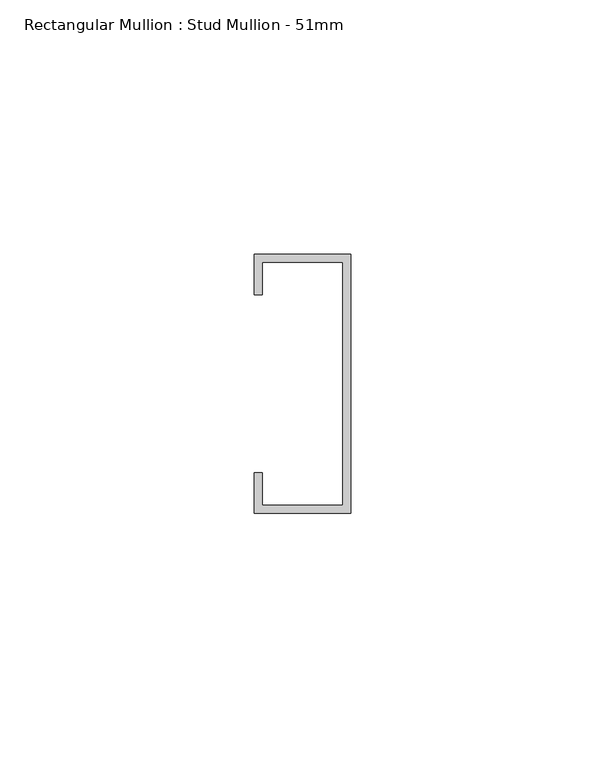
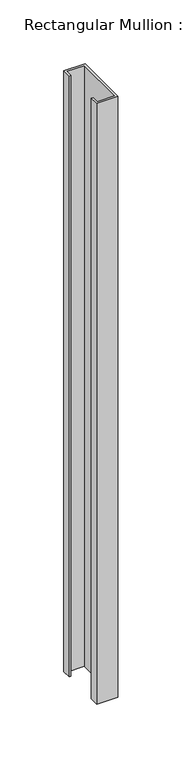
"""IFC4 building model written with IfcOpenShell, lengths in millimetres: member geometry, Rectangular Mullion : Stud Mullion - 51mm."""

import ifcopenshell
import ifcopenshell.guid

model = None  # the IFC model being written
_history = None  # IfcOwnerHistory: only IFC2X3 demands one
_inside = {}  # id of a spatial element -> (the spatial element, [elements in it])
_under = {}  # id of a project, library or spatial element -> (it, [spatial elements below it])
_declared = {}  # id of a project -> (the project, [libraries it declares])
_typed = {}  # id of a type object -> (the type object, [elements of that type])
_made_of = {}  # id of a material, layer set ... -> (it, [elements and type objects made of it])


def new_model(schema):
    """Start an empty IFC model of exactly this schema.

    Asked for "IFC4X3", IfcOpenShell would pick the latest addendum, in which some entities
    have other attributes; the version numbers below select the first issue.
    IFC2X3 requires an IfcOwnerHistory on every rooted entity: one is made here for all.
    """
    global model, _history
    if schema == "IFC4X3":
        model = ifcopenshell.file(schema_version=(4, 3, 0, 0))
    else:
        model = ifcopenshell.file(schema=schema)
    _inside.clear()
    _under.clear()
    _declared.clear()
    _typed.clear()
    _made_of.clear()
    _history = None
    if model.schema == "IFC2X3":
        org = make("IfcOrganization", Name="unknown")
        user = make(
            "IfcPersonAndOrganization",
            ThePerson=make("IfcPerson", FamilyName="unknown"),
            TheOrganization=org,
        )
        app = make(
            "IfcApplication",
            ApplicationDeveloper=org,
            Version="unknown",
            ApplicationFullName="unknown",
            ApplicationIdentifier="unknown",
        )
        _history = make(
            "IfcOwnerHistory",
            OwningUser=user,
            OwningApplication=app,
            ChangeAction="ADDED",
            CreationDate=0,
        )
    return model


def make(cls, **values):
    """One entity of the class cls with the attributes given. An attribute that is None is left unset."""
    return model.create_entity(
        cls, **{name: value for name, value in values.items() if value is not None}
    )


def rooted(cls, **values):
    """An entity with a GlobalId (a new one), such as an element, a storey or a relation."""
    return make(cls, GlobalId=ifcopenshell.guid.new(), OwnerHistory=_history, **values)


def si_unit(unit_type, name, prefix=None):
    """IfcSIUnit, for example si_unit("LENGTHUNIT", "METRE", prefix="MILLI")."""
    return make("IfcSIUnit", UnitType=unit_type, Prefix=prefix, Name=name)


def assignment(units):
    """IfcUnitAssignment: the units of a project."""
    return None if units is None else make("IfcUnitAssignment", Units=units)


def point(xyz):
    """IfcCartesianPoint."""
    return None if xyz is None else make("IfcCartesianPoint", Coordinates=xyz)


def direction(xyz):
    """IfcDirection."""
    return None if xyz is None else make("IfcDirection", DirectionRatios=xyz)


def frame(location, z_axis=None, x_axis=None):
    """IfcAxis2Placement3D, a coordinate frame: its origin and axes. An axis left out is left unset."""
    return make(
        "IfcAxis2Placement3D",
        Location=point(location),
        Axis=direction(z_axis),
        RefDirection=direction(x_axis),
    )


def origin():
    """The frame at (0, 0, 0) with its axes left unset."""
    return frame((0.0, 0.0, 0.0))


def place(relative_to, where):
    """IfcLocalPlacement: puts the frame where relative to a parent placement (None: the world)."""
    return make(
        "IfcLocalPlacement", PlacementRelTo=relative_to, RelativePlacement=where
    )


def context(
    kind, dimensions, precision=None, world=None, true_north=None, identifier=None
):
    """IfcGeometricRepresentationContext, for example the 3D "Model" context."""
    return make(
        "IfcGeometricRepresentationContext",
        ContextIdentifier=identifier,
        ContextType=kind,
        CoordinateSpaceDimension=dimensions,
        Precision=precision,
        WorldCoordinateSystem=world,
        TrueNorth=true_north,
    )


def project(units=None, contexts=None):
    """IfcProject with its units and contexts."""
    return rooted(
        "IfcProject",
        Name="project",
        RepresentationContexts=contexts,
        UnitsInContext=assignment(units),
    )


def spatial(cls, under=None, at=None, **own):
    """A site, building, storey or space (cls), placed at a placement, below another one or the project."""
    s = rooted(cls, ObjectPlacement=at, **own)
    if under is not None:
        _under.setdefault(under.id(), (under, []))[1].append(s)
    return s


def polyline(points):
    """IfcPolyline through the points."""
    return make("IfcPolyline", Points=[point(p) for p in points])


def outline(outer, holes=None, kind="AREA"):
    """IfcArbitraryClosedProfileDef: a profile drawn as a closed curve; with holes, ...WithVoids."""
    if holes is None:
        return make("IfcArbitraryClosedProfileDef", ProfileType=kind, OuterCurve=outer)
    return make(
        "IfcArbitraryProfileDefWithVoids",
        ProfileType=kind,
        OuterCurve=outer,
        InnerCurves=holes,
    )


def extrude(swept, where, along, depth):
    """IfcExtrudedAreaSolid: the profile swept, set in the frame where, extruded along a direction by depth."""
    return make(
        "IfcExtrudedAreaSolid",
        SweptArea=swept,
        Position=where,
        ExtrudedDirection=direction(along),
        Depth=depth,
    )


def shape(context_of_items, identifier, shape_type, items):
    """IfcShapeRepresentation: the items that make up one representation, for example the "Body"."""
    return make(
        "IfcShapeRepresentation",
        ContextOfItems=context_of_items,
        RepresentationIdentifier=identifier,
        RepresentationType=shape_type,
        Items=items,
    )


def source(mapping_origin, context_of_items, identifier, shape_type, items):
    """IfcRepresentationMap: a shape defined once, which mapped items show again and again."""
    return make(
        "IfcRepresentationMap",
        MappingOrigin=mapping_origin,
        MappedRepresentation=shape(context_of_items, identifier, shape_type, items),
    )


def transform(
    local_origin,
    x_axis=None,
    y_axis=None,
    z_axis=None,
    scale=None,
    scale2=None,
    scale3=None,
    uniform=True,
):
    """IfcCartesianTransformationOperator3D, or its non-uniform kind. x_axis, y_axis, z_axis: its Axis1, 2, 3."""
    if uniform:
        return make(
            "IfcCartesianTransformationOperator3D",
            Axis1=direction(x_axis),
            Axis2=direction(y_axis),
            LocalOrigin=point(local_origin),
            Scale=scale,
            Axis3=direction(z_axis),
        )
    return make(
        "IfcCartesianTransformationOperator3DnonUniform",
        Axis1=direction(x_axis),
        Axis2=direction(y_axis),
        LocalOrigin=point(local_origin),
        Scale=scale,
        Axis3=direction(z_axis),
        Scale2=scale2,
        Scale3=scale3,
    )


def mapped(mapping_source, mapping_target):
    """IfcMappedItem: shows the shape of a source again, moved by a transform."""
    return make(
        "IfcMappedItem", MappingSource=mapping_source, MappingTarget=mapping_target
    )


def made_of(thing, what):
    """Note that an element or type object is made of a material, layer set ...; save() writes the relation."""
    if what is not None:
        _made_of.setdefault(what.id(), (what, []))[1].append(thing)
    return thing


def element(
    cls,
    number,
    at=None,
    inside=None,
    cuts=None,
    type_object=None,
    material=None,
    context=None,
    identifier="Body",
    shape_type=None,
    held_by="IfcProductDefinitionShape",
    body=None,
    shapes=None,
    **own,
):
    """One element of the class cls, such as IfcWall. Its Tag is "e" and its number.

    at: its placement. inside: the storey or other place that contains it. cuts: it is an
    opening in that element (IfcRelVoidsElement). A single representation is given by context,
    identifier, shape_type and body (its items); several are given by shapes. held_by: the class
    of the entity that holds the representations. save() writes the other relations.
    """
    e = rooted(cls, Tag="e%d" % number, ObjectPlacement=at, **own)
    if body is not None:
        shapes = [shape(context, identifier, shape_type, body)]
    if shapes is not None:
        e.Representation = make(held_by, Representations=shapes)
    if inside is not None:
        _inside.setdefault(inside.id(), (inside, []))[1].append(e)
    if cuts is not None:
        rooted(
            "IfcRelVoidsElement", RelatingBuildingElement=cuts, RelatedOpeningElement=e
        )
    if type_object is not None:
        _typed.setdefault(type_object.id(), (type_object, []))[1].append(e)
    return made_of(e, material)


def aggregate(whole, parts):
    """IfcRelAggregates: a whole, such as a stair, and the parts it consists of."""
    return rooted("IfcRelAggregates", RelatingObject=whole, RelatedObjects=parts)


def save(model, path):
    """Write the relations noted so far, then the file.

    IfcRelAggregates (storeys below a building ...), IfcRelContainedInSpatialStructure (elements
    in a storey), IfcRelDefinesByType, IfcRelAssociatesMaterial and IfcRelDeclares: one each for
    every whole, place, type object, material and project.
    """
    for whole, parts in _under.values():
        aggregate(whole, parts)
    for where, things in _inside.values():
        rooted(
            "IfcRelContainedInSpatialStructure",
            RelatedElements=things,
            RelatingStructure=where,
        )
    for kind, things in _typed.values():
        rooted("IfcRelDefinesByType", RelatedObjects=things, RelatingType=kind)
    for what, things in _made_of.values():
        rooted("IfcRelAssociatesMaterial", RelatedObjects=things, RelatingMaterial=what)
    for by, libraries in _declared.values():
        rooted("IfcRelDeclares", RelatingContext=by, RelatedDefinitions=libraries)
    model.write(path)


def rectangular_mullion_stud_mullion_51mm_a03bd563(model_context):
    return source(origin(), model_context, "Body", "SweptSolid", [
        extrude(outline(polyline([(-19.0, 17.5), (-19.0, 25.5), (0.0, 25.5), (0.0, -25.5), (-19.0, -25.5), (-19.0, -17.5), (-17.4, -17.5), (-17.4, -23.9), (-1.6, -23.9), (-1.6, 23.9), (-17.4, 23.9), (-17.4, 17.5), (-19.0, 17.5)])), frame((0.0, 0.0, -573.1000002), z_axis=(0.0, 0.0, 1.0), x_axis=(1.0, 0.0, 0.0)), (0.0, 0.0, 1.0), 573.1000002),
    ])


if __name__ == "__main__":
    model = new_model("IFC4")
    model_context = context("Model", 3, world=origin())
    ifc_project = project(units=[si_unit("LENGTHUNIT", "METRE", prefix="MILLI")], contexts=[model_context])
    site = spatial("IfcSite", under=ifc_project)
    building = spatial("IfcBuilding", under=site)
    placement = place(None, origin())
    rectangular_mullion_stud_mullion_51mm_shape = rectangular_mullion_stud_mullion_51mm_a03bd563(model_context)
    element("IfcMember", 1, ObjectType="Rectangular Mullion : Stud Mullion - 51mm", at=placement, inside=building, context=model_context, shape_type="MappedRepresentation", body=[
        mapped(rectangular_mullion_stud_mullion_51mm_shape, transform((0.0, 0.0, 0.0), x_axis=(1.0, 0.0, 0.0), y_axis=(0.0, 1.0, 0.0), z_axis=(0.0, 0.0, 1.0))),
    ])
    save(model, "model.ifc")
